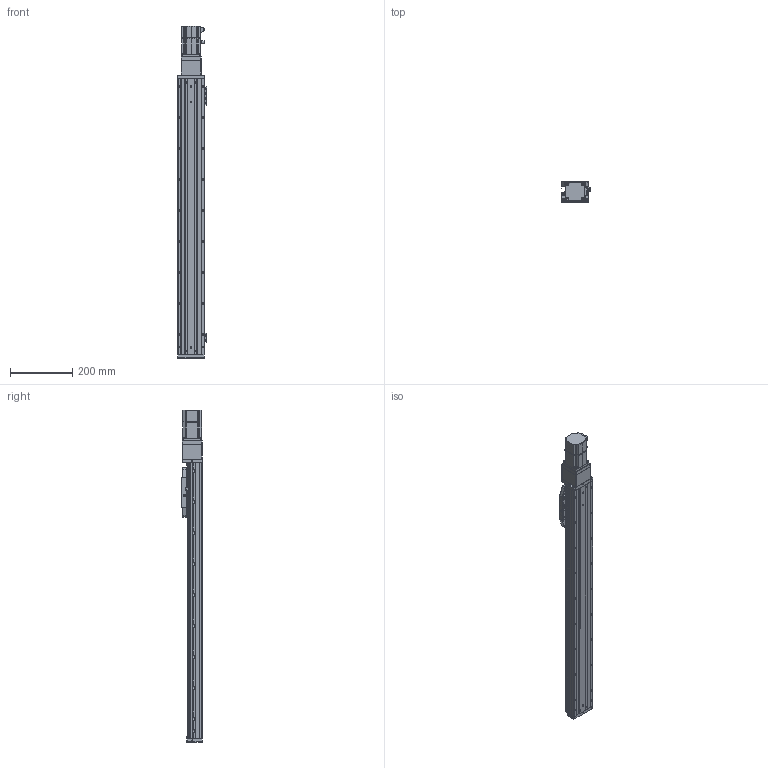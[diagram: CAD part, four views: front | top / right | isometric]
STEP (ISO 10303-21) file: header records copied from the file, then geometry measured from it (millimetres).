
FILE_DESCRIPTION (( 'STEP AP203' ), '1' );
FILE_NAME ('CTHA86-700-BC-M20-C4L.step', '2022-04-26T00:47:59', ( '微软用户' ), ( '微软中国' ), 'SwSTEP 2.0', 'SolidWorks 2020', '' );
FILE_SCHEMA (( 'CONFIG_CONTROL_DESIGN' ));
Length unit declared in the file: millimetre
Products named in the file (22): KTHA86-005; GBT70.1 M5℅16; _X2_4E0983F1_X0_200W_1; GB¨uT 70.2-M3¡Á5_M3¡Á6; GBT 70.1-M3×16; GBT 70.3-M3℅6; EE_SX911P_R; GBT 70.1-M3℅6; CTHA86-002; CTHA60-017; CTHA60-016; CTHA86-031; CTHA60-021; CTHA86-013; CTHA86-030; KTHA86-001_890; GBT77-2000 M3×3; CTHA86-027; CTHA86-700-BC-M20-C4L; KTHA86-004; GBT 70.1-M3×20; CTHA86-006-1_CTHA86-006-2
Assembly tree (65 placements, depth 2):
  CTHA86-700-BC-M20-C4L
    KTHA86-001_890
    KTHA86-004
    KTHA86-005
    GB¨uT 70.2-M3¡Á5_M3¡Á6  x10
    EE_SX911P_R  x3
    CTHA60-017  x3
    CTHA60-021  x2
    GBT77-2000 M3×3  x6
    GBT 70.1-M3×20
    GBT70.1 M5℅16  x14
    GBT 70.1-M3×16
    GBT 70.1-M3℅6  x6
    CTHA60-016  x2
    CTHA86-013
    CTHA86-027
    CTHA86-006-1_CTHA86-006-2
    _X2_4E0983F1_X0_200W_1
    GBT 70.3-M3℅6  x6
    CTHA86-002
    CTHA86-031
    CTHA86-030  x2
Bounding box: 93.82 x 68 x 1070.5 mm (x, y, z)
Volume: 3564252.3 mm3; surface area: 629570 mm2
Topology: 67 solids, 67 shells, 2754 faces, 6583 edges, 4048 vertices
Faces by surface type: plane 1440, cylinder 709, cone 392, torus 120, bspline 69, sphere 24
Entity records: 48921 total; most frequent: CARTESIAN_POINT 9072, DIRECTION 7708, ORIENTED_EDGE 7422, EDGE_CURVE 3711, AXIS2_PLACEMENT_3D 2620, VECTOR 2468, LINE 2468, VERTEX_POINT 2326
